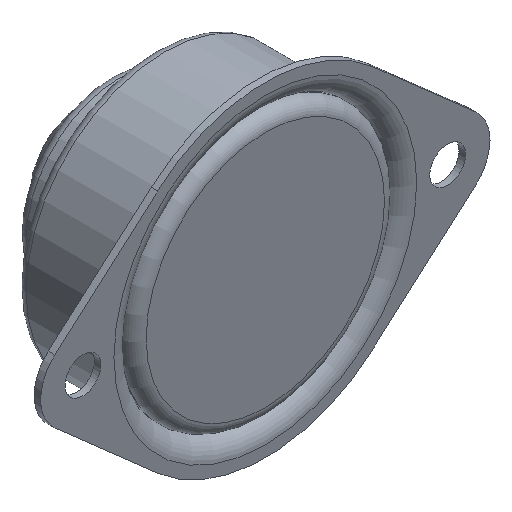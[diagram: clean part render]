
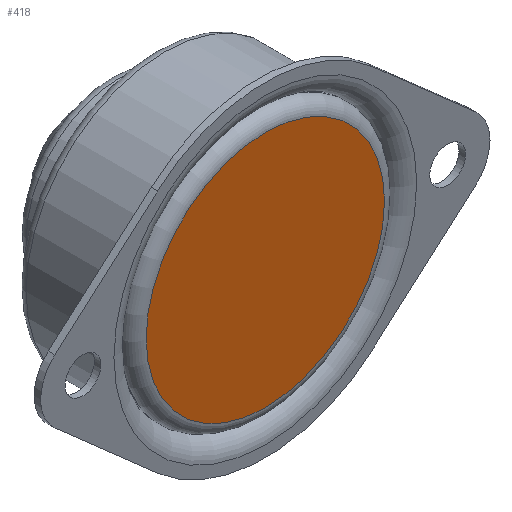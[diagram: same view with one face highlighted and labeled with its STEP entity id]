
A CAD part, isometric view. The second image highlights one B-rep face of the part: STEP entity #418.
In plain terms, the highlighted planar face has unit normal (0, -1, 0).
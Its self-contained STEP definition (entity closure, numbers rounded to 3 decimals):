
#37=PLANE('',#492);
#59=FACE_OUTER_BOUND('',#89,.T.);
#89=EDGE_LOOP('',(#361));
#168=CIRCLE('',#493,18.3);
#209=VERTEX_POINT('',#756);
#264=EDGE_CURVE('',#209,#209,#168,.T.);
#361=ORIENTED_EDGE('',*,*,#264,.F.);
#418=ADVANCED_FACE('',(#59),#37,.T.);
#492=AXIS2_PLACEMENT_3D('',#755,#625,#626);
#493=AXIS2_PLACEMENT_3D('',#757,#627,#628);
#625=DIRECTION('center_axis',(0.,-1.,0.));
#626=DIRECTION('ref_axis',(0.,0.,-1.));
#627=DIRECTION('center_axis',(0.,1.,0.));
#628=DIRECTION('ref_axis',(1.,0.,0.));
#755=CARTESIAN_POINT('Origin',(-18.3,0.,0.));
#756=CARTESIAN_POINT('',(0.,0.,-18.3));
#757=CARTESIAN_POINT('Origin',(0.,0.,0.));
